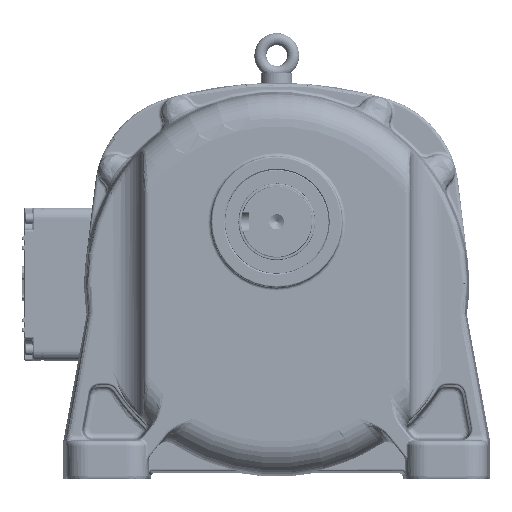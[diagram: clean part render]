
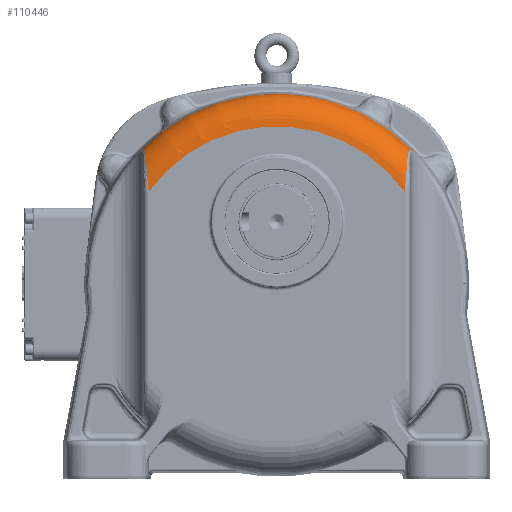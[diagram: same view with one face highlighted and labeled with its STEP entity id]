
A CAD part, front view. The second image highlights one B-rep face of the part: STEP entity #110446.
In plain terms, the highlighted toroidal (fillet/blend) face has major radius 144.309 mm and minor radius 30 mm.
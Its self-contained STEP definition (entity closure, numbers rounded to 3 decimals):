
#3381=TOROIDAL_SURFACE('',#119246,144.309,30.);
#8080=FACE_OUTER_BOUND('',#14664,.T.);
#14664=EDGE_LOOP('',(#79313,#79314,#79315,#79316,#79317,#79318));
#21729=CIRCLE('',#119238,174.308);
#21737=CIRCLE('',#119247,144.309);
#39497=B_SPLINE_CURVE_WITH_KNOTS('',3,(#194719,#194720,#194721,#194722,
#194723),.UNSPECIFIED.,.F.,.F.,(4,1,4),(-3.01,-1.29,
0.),.UNSPECIFIED.);
#39498=B_SPLINE_CURVE_WITH_KNOTS('',3,(#194727,#194728,#194729,#194730,
#194731,#194732),.UNSPECIFIED.,.F.,.F.,(4,1,1,4),(-3.01,-2.15,
-1.29,0.),.UNSPECIFIED.);
#39499=B_SPLINE_CURVE_WITH_KNOTS('',3,(#194733,#194734,#194735,#194736,
#194737,#194738,#194739,#194740),.UNSPECIFIED.,.F.,.F.,(4,1,1,1,1,4),(-2.011,
-1.723,-1.436,-0.862,-0.574,
0.),.UNSPECIFIED.);
#39500=B_SPLINE_CURVE_WITH_KNOTS('',3,(#194741,#194742,#194743,#194744,
#194745,#194746,#194747,#194748),.UNSPECIFIED.,.F.,.F.,(4,1,1,1,1,4),(0.,
0.574,0.862,1.436,1.723,2.011),
 .UNSPECIFIED.);
#45207=VERTEX_POINT('',#194649);
#45208=VERTEX_POINT('',#194657);
#45219=VERTEX_POINT('',#194717);
#45220=VERTEX_POINT('',#194718);
#45221=VERTEX_POINT('',#194724);
#45222=VERTEX_POINT('',#194726);
#57570=EDGE_CURVE('',#45208,#45207,#21729,.T.);
#57586=EDGE_CURVE('',#45219,#45220,#39497,.T.);
#57587=EDGE_CURVE('',#45219,#45221,#21737,.T.);
#57588=EDGE_CURVE('',#45222,#45221,#39498,.T.);
#57589=EDGE_CURVE('',#45208,#45222,#39499,.T.);
#57590=EDGE_CURVE('',#45220,#45207,#39500,.T.);
#79313=ORIENTED_EDGE('',*,*,#57586,.F.);
#79314=ORIENTED_EDGE('',*,*,#57587,.T.);
#79315=ORIENTED_EDGE('',*,*,#57588,.F.);
#79316=ORIENTED_EDGE('',*,*,#57589,.F.);
#79317=ORIENTED_EDGE('',*,*,#57570,.T.);
#79318=ORIENTED_EDGE('',*,*,#57590,.F.);
#110446=ADVANCED_FACE('',(#8080),#3381,.T.);
#119238=AXIS2_PLACEMENT_3D('',#194658,#136989,#136990);
#119246=AXIS2_PLACEMENT_3D('',#194716,#137005,#137006);
#119247=AXIS2_PLACEMENT_3D('',#194725,#137007,#137008);
#136989=DIRECTION('center_axis',(0.,-1.,0.));
#136990=DIRECTION('ref_axis',(-1.,0.,0.));
#137005=DIRECTION('center_axis',(0.,1.,0.));
#137006=DIRECTION('ref_axis',(0.,0.,1.));
#137007=DIRECTION('center_axis',(0.,1.,0.));
#137008=DIRECTION('ref_axis',(-1.,0.,0.));
#194649=CARTESIAN_POINT('',(-137.843,10.431,119.577));
#194657=CARTESIAN_POINT('',(112.46,10.431,119.577));
#194658=CARTESIAN_POINT('Origin',(-12.691,10.431,-1.75));
#194716=CARTESIAN_POINT('Origin',(-12.691,10.742,-1.75));
#194717=CARTESIAN_POINT('',(-129.691,-19.258,82.726));
#194718=CARTESIAN_POINT('',(-132.328,-9.658,113.768));
#194719=CARTESIAN_POINT('Ctrl Pts',(-129.691,-19.258,
82.726));
#194720=CARTESIAN_POINT('Ctrl Pts',(-130.235,-19.258,
88.852));
#194721=CARTESIAN_POINT('Ctrl Pts',(-131.187,-17.871,
99.762));
#194722=CARTESIAN_POINT('Ctrl Pts',(-132.023,-12.751,
109.954));
#194723=CARTESIAN_POINT('Ctrl Pts',(-132.328,-9.658,
113.768));
#194724=CARTESIAN_POINT('',(104.309,-19.258,82.726));
#194725=CARTESIAN_POINT('Origin',(-12.691,-19.258,-1.75));
#194726=CARTESIAN_POINT('',(106.946,-9.658,113.768));
#194727=CARTESIAN_POINT('Ctrl Pts',(106.946,-9.658,
113.768));
#194728=CARTESIAN_POINT('Ctrl Pts',(106.743,-11.72,
111.226));
#194729=CARTESIAN_POINT('Ctrl Pts',(106.288,-15.051,105.632));
#194730=CARTESIAN_POINT('Ctrl Pts',(105.397,-18.506,95.069));
#194731=CARTESIAN_POINT('Ctrl Pts',(104.717,-19.258,
87.321));
#194732=CARTESIAN_POINT('Ctrl Pts',(104.309,-19.258,
82.726));
#194733=CARTESIAN_POINT('Ctrl Pts',(112.46,10.431,119.577));
#194734=CARTESIAN_POINT('Ctrl Pts',(112.014,9.55,120.024));
#194735=CARTESIAN_POINT('Ctrl Pts',(111.14,7.678,120.774));
#194736=CARTESIAN_POINT('Ctrl Pts',(109.514,3.515,121.518));
#194737=CARTESIAN_POINT('Ctrl Pts',(108.279,-0.986,
120.65));
#194738=CARTESIAN_POINT('Ctrl Pts',(107.364,-5.886,
117.822));
#194739=CARTESIAN_POINT('Ctrl Pts',(107.082,-8.28,
115.467));
#194740=CARTESIAN_POINT('Ctrl Pts',(106.946,-9.658,113.768));
#194741=CARTESIAN_POINT('Ctrl Pts',(-132.328,-9.658,
113.768));
#194742=CARTESIAN_POINT('Ctrl Pts',(-132.464,-8.28,
115.467));
#194743=CARTESIAN_POINT('Ctrl Pts',(-132.747,-5.886,
117.822));
#194744=CARTESIAN_POINT('Ctrl Pts',(-133.662,-0.986,
120.65));
#194745=CARTESIAN_POINT('Ctrl Pts',(-134.896,3.515,
121.518));
#194746=CARTESIAN_POINT('Ctrl Pts',(-136.522,7.679,
120.773));
#194747=CARTESIAN_POINT('Ctrl Pts',(-137.396,9.55,
120.024));
#194748=CARTESIAN_POINT('Ctrl Pts',(-137.843,10.431,
119.577));
